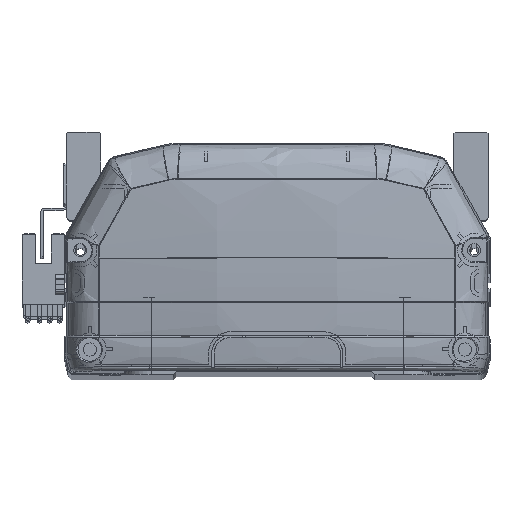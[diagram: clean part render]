
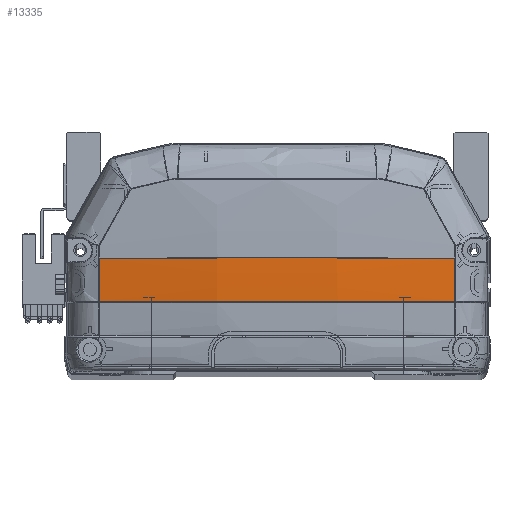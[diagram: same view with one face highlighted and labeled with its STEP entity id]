
A CAD part, top view. The second image highlights one B-rep face of the part: STEP entity #13335.
In plain terms, the highlighted free-form (B-spline) face has degree [3, 3] with [4, 4] control points.
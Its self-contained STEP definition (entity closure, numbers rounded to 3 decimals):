
#670 = CARTESIAN_POINT ( 'NONE',  ( 19.295, 21.828, -11.186 ) ) ;
#1001 = CARTESIAN_POINT ( 'NONE',  ( 19.295, 31.274, -11.535 ) ) ;
#1428 = CARTESIAN_POINT ( 'NONE',  ( 56.647, 35.969, -5.158 ) ) ;
#2543 = AXIS2_PLACEMENT_3D ( 'NONE', #4050, #25800, #18516 ) ;
#2769 = CARTESIAN_POINT ( 'NONE',  ( 56.661, 22.225, -4.818 ) ) ;
#4050 = CARTESIAN_POINT ( 'NONE',  ( 0., 36., 330.833 ) ) ;
#4564 = CARTESIAN_POINT ( 'NONE',  ( 56.647, 31.387, -5.158 ) ) ;
#4769 = CARTESIAN_POINT ( 'NONE',  ( 56.647, 35.969, -5.158 ) ) ;
#5311 = VERTEX_POINT ( 'NONE', #9681 ) ;
#5899 = ORIENTED_EDGE ( 'NONE', *, *, #20032, .F. ) ;
#7037 = CARTESIAN_POINT ( 'NONE',  ( -56.647, 36., -5.158 ) ) ;
#7597 = DIRECTION ( 'NONE',  ( -1., 0., 0. ) ) ;
#7803 = CARTESIAN_POINT ( 'NONE',  ( 57.335, 31.38, -5.042 ) ) ;
#8264 = CARTESIAN_POINT ( 'NONE',  ( -19.28, 22.225, -9.565 ) ) ;
#8707 = CARTESIAN_POINT ( 'NONE',  ( 56.661, 22.225, -4.818 ) ) ;
#9416 = CARTESIAN_POINT ( 'NONE',  ( -56.647, 31.405, -5.158 ) ) ;
#9510 = CARTESIAN_POINT ( 'NONE',  ( 56.647, 36., -5.158 ) ) ;
#9556 = CARTESIAN_POINT ( 'NONE',  ( 19.121, 22.225, -9.064 ) ) ;
#9652 = B_SPLINE_CURVE_WITH_KNOTS ( 'NONE', 3,
 ( #25736, #14956, #20197, #23705, #9556, #27330, #22730, #11933, #15584, #38059, #8264, #20052, #41686 ),
 .UNSPECIFIED., .F., .F.,
 ( 4, 2, 2, 1, 2, 2, 4 ),
 ( 0., 0.25, 0.375, 0.438, 0.469, 0.5, 1. ),
 .UNSPECIFIED. ) ;
#9681 = CARTESIAN_POINT ( 'NONE',  ( -56.661, 22.225, -4.818 ) ) ;
#9744 = CARTESIAN_POINT ( 'NONE',  ( -56.661, 22.225, -4.818 ) ) ;
#11933 = CARTESIAN_POINT ( 'NONE',  ( 4.761, 22.225, -9.537 ) ) ;
#13120 =( BOUNDED_SURFACE ( )  B_SPLINE_SURFACE ( 3, 3, ( 
 ( #33591, #33261, #7803, #22720 ),
 ( #670, #36614, #1001, #29815 ),
 ( #19075, #40405, #40552, #15262 ),
 ( #37237, #43918, #32953, #26039 ) ),
 .UNSPECIFIED., .F., .F., .T. ) 
 B_SPLINE_SURFACE_WITH_KNOTS ( ( 4, 4 ),
 ( 4, 4 ),
 ( 0., 1. ),
 ( 0., 1. ),
 .UNSPECIFIED. ) 
 GEOMETRIC_REPRESENTATION_ITEM ( )  RATIONAL_B_SPLINE_SURFACE ( (
 ( 1., 1., 1., 1.),
 ( 0.99, 0.99, 0.99, 0.99),
 ( 0.99, 0.99, 0.99, 0.99),
 ( 1., 1., 1., 1.) ) ) 
 REPRESENTATION_ITEM ( '' )  SURFACE ( )  );
#13335 = ADVANCED_FACE ( 'NONE', ( #45758 ), #13120, .T. ) ;
#14114 = ORIENTED_EDGE ( 'NONE', *, *, #17488, .F. ) ;
#14253 = VERTEX_POINT ( 'NONE', #9510 ) ;
#14956 = CARTESIAN_POINT ( 'NONE',  ( 47.432, 22.225, -6.377 ) ) ;
#15193 = CIRCLE ( 'NONE', #39780, 6395.966 ) ;
#15262 = CARTESIAN_POINT ( 'NONE',  ( -19.295, 36., -11.535 ) ) ;
#15584 = CARTESIAN_POINT ( 'NONE',  ( 2.357, 22.225, -9.562 ) ) ;
#15772 = EDGE_LOOP ( 'NONE', ( #27472, #14114, #18812, #39514, #5899 ) ) ;
#17488 = EDGE_CURVE ( 'NONE', #45379, #14253, #15193, .T. ) ;
#18516 = DIRECTION ( 'NONE',  ( 0., 0., -1. ) ) ;
#18552 = DIRECTION ( 'NONE',  ( 0., 0., -1. ) ) ;
#18812 = ORIENTED_EDGE ( 'NONE', *, *, #29987, .F. ) ;
#19075 = CARTESIAN_POINT ( 'NONE',  ( -19.295, 21.828, -11.186 ) ) ;
#20032 = EDGE_CURVE ( 'NONE', #24026, #5311, #21001, .T. ) ;
#20052 = CARTESIAN_POINT ( 'NONE',  ( -38.235, 22.225, -7.93 ) ) ;
#20197 = CARTESIAN_POINT ( 'NONE',  ( 38.071, 22.225, -7.566 ) ) ;
#21001 = B_SPLINE_CURVE_WITH_KNOTS ( 'NONE', 3,
 ( #7037, #9416, #24358, #9744 ),
 .UNSPECIFIED., .F., .F.,
 ( 4, 4 ),
 ( 0., 1. ),
 .UNSPECIFIED. ) ;
#22720 = CARTESIAN_POINT ( 'NONE',  ( 57.335, 36., -5.042 ) ) ;
#22730 = CARTESIAN_POINT ( 'NONE',  ( 8.363, 22.225, -9.48 ) ) ;
#23705 = CARTESIAN_POINT ( 'NONE',  ( 23.877, 22.225, -8.763 ) ) ;
#24026 = VERTEX_POINT ( 'NONE', #29204 ) ;
#24358 = CARTESIAN_POINT ( 'NONE',  ( -56.652, 26.814, -5.045 ) ) ;
#25736 = CARTESIAN_POINT ( 'NONE',  ( 56.661, 22.225, -4.818 ) ) ;
#25800 = DIRECTION ( 'NONE',  ( 0., 1., 0. ) ) ;
#26039 = CARTESIAN_POINT ( 'NONE',  ( -57.335, 36., -5.042 ) ) ;
#27330 = CARTESIAN_POINT ( 'NONE',  ( 11.954, 22.225, -9.367 ) ) ;
#27472 = ORIENTED_EDGE ( 'NONE', *, *, #36791, .F. ) ;
#29204 = CARTESIAN_POINT ( 'NONE',  ( -56.647, 36., -5.158 ) ) ;
#29815 = CARTESIAN_POINT ( 'NONE',  ( 19.295, 36., -11.535 ) ) ;
#29987 = EDGE_CURVE ( 'NONE', #37909, #45379, #37126, .T. ) ;
#32953 = CARTESIAN_POINT ( 'NONE',  ( -57.335, 31.38, -5.042 ) ) ;
#33215 = CARTESIAN_POINT ( 'NONE',  ( 6452.613, 35.969, -5.158 ) ) ;
#33261 = CARTESIAN_POINT ( 'NONE',  ( 57.335, 26.762, -4.928 ) ) ;
#33591 = CARTESIAN_POINT ( 'NONE',  ( 57.335, 22.148, -4.7 ) ) ;
#36000 = EDGE_CURVE ( 'NONE', #37909, #5311, #9652, .T. ) ;
#36614 = CARTESIAN_POINT ( 'NONE',  ( 19.295, 26.549, -11.419 ) ) ;
#36791 = EDGE_CURVE ( 'NONE', #14253, #24026, #41599, .T. ) ;
#37126 = B_SPLINE_CURVE_WITH_KNOTS ( 'NONE', 3,
 ( #8707, #40994, #4564, #1428 ),
 .UNSPECIFIED., .F., .F.,
 ( 4, 4 ),
 ( 0., 1. ),
 .UNSPECIFIED. ) ;
#37237 = CARTESIAN_POINT ( 'NONE',  ( -57.335, 22.148, -4.7 ) ) ;
#37909 = VERTEX_POINT ( 'NONE', #2769 ) ;
#38059 = CARTESIAN_POINT ( 'NONE',  ( 1.152, 22.225, -9.568 ) ) ;
#39514 = ORIENTED_EDGE ( 'NONE', *, *, #36000, .T. ) ;
#39780 = AXIS2_PLACEMENT_3D ( 'NONE', #33215, #18552, #7597 ) ;
#40405 = CARTESIAN_POINT ( 'NONE',  ( -19.295, 26.549, -11.419 ) ) ;
#40552 = CARTESIAN_POINT ( 'NONE',  ( -19.295, 31.274, -11.535 ) ) ;
#40994 = CARTESIAN_POINT ( 'NONE',  ( 56.652, 26.806, -5.044 ) ) ;
#41599 = CIRCLE ( 'NONE', #2543, 340.733 ) ;
#41686 = CARTESIAN_POINT ( 'NONE',  ( -56.661, 22.225, -4.818 ) ) ;
#43918 = CARTESIAN_POINT ( 'NONE',  ( -57.335, 26.762, -4.928 ) ) ;
#45379 = VERTEX_POINT ( 'NONE', #4769 ) ;
#45758 = FACE_OUTER_BOUND ( 'NONE', #15772, .T. ) ;
